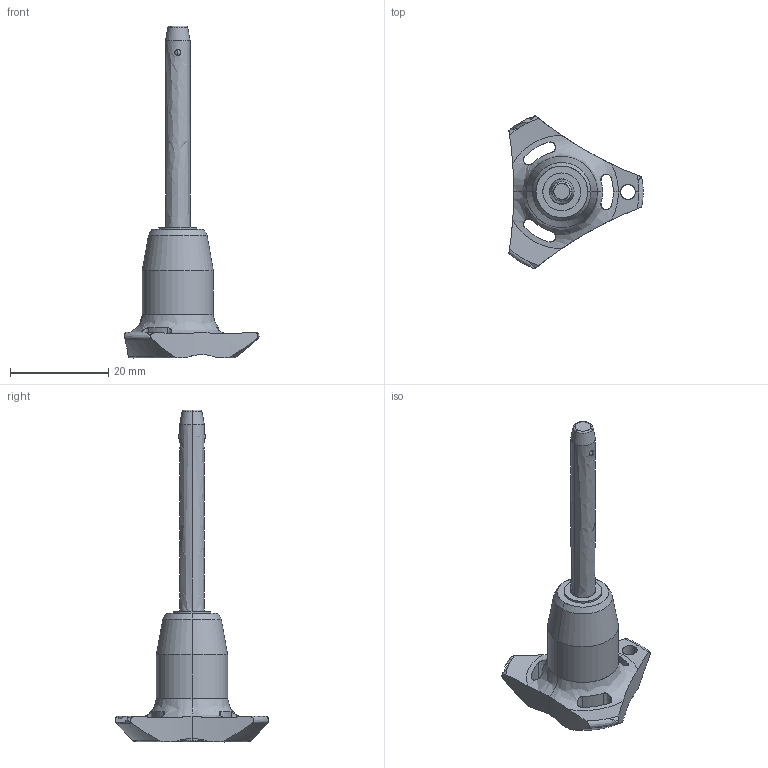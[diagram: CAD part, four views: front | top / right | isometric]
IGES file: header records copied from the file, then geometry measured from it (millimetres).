
Start section: SolidWorks IGES file using analytic representation for surfaces
Global section: file name: C:\Users\ianosborn\Desktop\QR1714_v2\QR1714_v2_20251112_IGES\QR1714.M05-035-S.igs; native system: SolidWorks 2019; preprocessor: SolidWorks 2019; author: IanOsborn; date: 251112.095515; units: millimetre
Bounding box: 27.4 x 31.31 x 67.7 mm (x, y, z)
Surface area: 3058.1 mm2 (no closed solid volume)
Topology: 0 solids, 0 shells, 66 faces, 1227 edges, 1208 vertices
Faces by surface type: revolution 50, bspline 16
